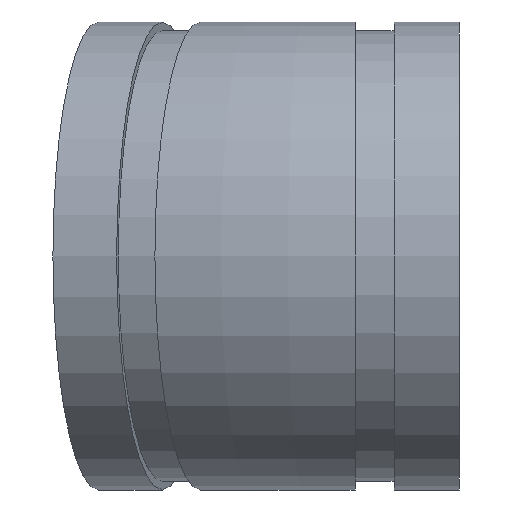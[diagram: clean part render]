
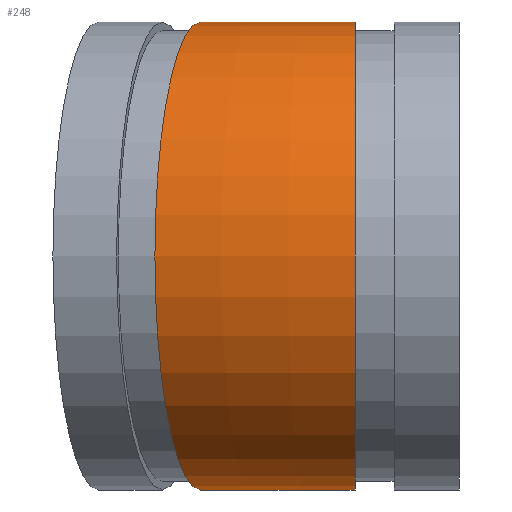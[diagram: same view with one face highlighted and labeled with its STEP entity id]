
A CAD part, left-side view. The second image highlights one B-rep face of the part: STEP entity #248.
In plain terms, the highlighted toroidal (fillet/blend) face has major radius 193.418 mm and minor radius 57.15 mm.
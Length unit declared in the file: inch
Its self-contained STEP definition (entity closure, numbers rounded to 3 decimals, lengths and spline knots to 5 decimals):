
#15=TOROIDAL_SURFACE('',#303,7.61488,2.25);
#47=FACE_OUTER_BOUND('',#65,.T.);
#65=EDGE_LOOP('',(#190,#191,#192,#193,#194,#195));
#79=CIRCLE('',#283,2.25);
#80=CIRCLE('',#284,2.25);
#86=CIRCLE('',#293,2.25);
#87=CIRCLE('',#294,2.25);
#95=CIRCLE('',#304,5.36488);
#105=VERTEX_POINT('',#418);
#106=VERTEX_POINT('',#419);
#112=VERTEX_POINT('',#436);
#113=VERTEX_POINT('',#437);
#130=EDGE_CURVE('',#105,#106,#79,.T.);
#131=EDGE_CURVE('',#106,#105,#80,.T.);
#138=EDGE_CURVE('',#112,#113,#86,.T.);
#139=EDGE_CURVE('',#113,#112,#87,.T.);
#147=EDGE_CURVE('',#113,#106,#95,.T.);
#190=ORIENTED_EDGE('',*,*,#138,.T.);
#191=ORIENTED_EDGE('',*,*,#147,.T.);
#192=ORIENTED_EDGE('',*,*,#131,.T.);
#193=ORIENTED_EDGE('',*,*,#130,.T.);
#194=ORIENTED_EDGE('',*,*,#147,.F.);
#195=ORIENTED_EDGE('',*,*,#139,.T.);
#248=ADVANCED_FACE('',(#47),#15,.T.);
#283=AXIS2_PLACEMENT_3D('',#420,#334,#335);
#284=AXIS2_PLACEMENT_3D('',#421,#336,#337);
#293=AXIS2_PLACEMENT_3D('',#438,#355,#356);
#294=AXIS2_PLACEMENT_3D('',#439,#357,#358);
#303=AXIS2_PLACEMENT_3D('',#454,#375,#376);
#304=AXIS2_PLACEMENT_3D('',#455,#377,#378);
#334=DIRECTION('center_axis',(0.,1.,0.));
#335=DIRECTION('ref_axis',(1.,0.,0.));
#336=DIRECTION('center_axis',(0.,1.,0.));
#337=DIRECTION('ref_axis',(1.,0.,0.));
#355=DIRECTION('center_axis',(-0.195,-0.981,0.));
#356=DIRECTION('ref_axis',(0.981,-0.195,0.));
#357=DIRECTION('center_axis',(-0.195,-0.981,0.));
#358=DIRECTION('ref_axis',(0.981,-0.195,0.));
#375=DIRECTION('center_axis',(0.,0.,-1.));
#376=DIRECTION('ref_axis',(-1.,0.,0.));
#377=DIRECTION('center_axis',(0.,0.,1.));
#378=DIRECTION('ref_axis',(-1.,0.,0.));
#418=CARTESIAN_POINT('',(0.,1.,2.25));
#419=CARTESIAN_POINT('',(2.25,1.,0.));
#420=CARTESIAN_POINT('Origin',(0.,1.,0.));
#421=CARTESIAN_POINT('Origin',(0.,1.,0.));
#436=CARTESIAN_POINT('',(0.14632,2.48559,2.25));
#437=CARTESIAN_POINT('',(2.35308,2.04664,0.));
#438=CARTESIAN_POINT('Origin',(0.14632,2.48559,0.));
#439=CARTESIAN_POINT('Origin',(0.14632,2.48559,0.));
#454=CARTESIAN_POINT('Origin',(7.61488,1.,0.));
#455=CARTESIAN_POINT('Origin',(7.61488,1.,0.));
